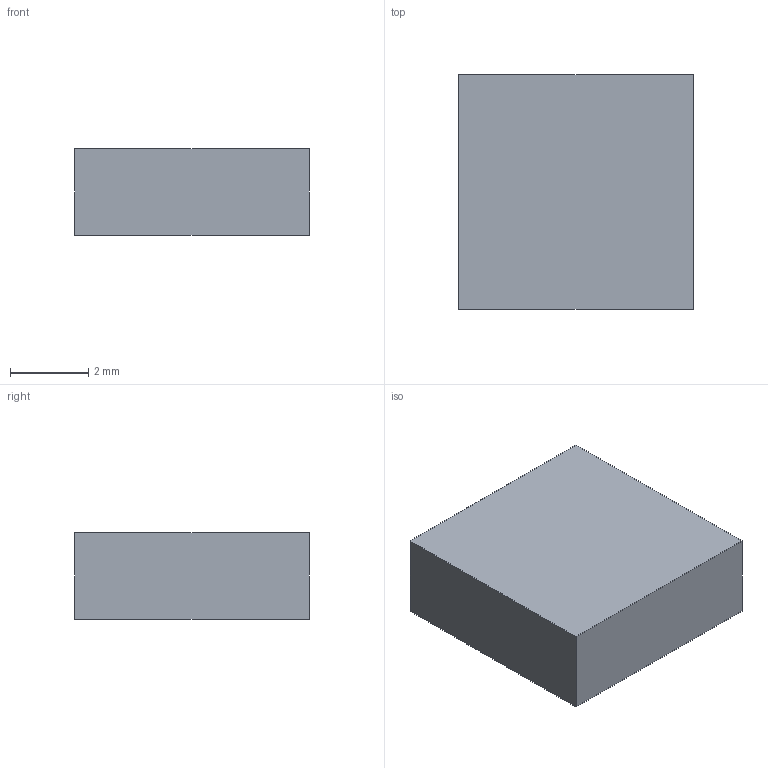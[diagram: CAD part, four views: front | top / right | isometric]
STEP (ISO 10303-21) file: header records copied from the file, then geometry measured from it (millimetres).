
FILE_DESCRIPTION(('Open CASCADE Model'),'2;1');
FILE_NAME('Open CASCADE Shape Model','2026-09-08T11:15:49',('Author'),( 'Open CASCADE'),'Open CASCADE STEP processor 7.7','Open CASCADE 7.7' ,'Unknown');
FILE_SCHEMA(('AUTOMOTIVE_DESIGN { 1 0 10303 214 1 1 1 1 }'));
Length unit declared in the file: millimetre
Products named in the file (1): Open CASCADE STEP translator 7.7 37
Bounding box: 6 x 6 x 2.2 mm (x, y, z)
Volume: 79.2 mm3; surface area: 124.8 mm2
Topology: 1 solids, 1 shells, 6 faces, 12 edges, 8 vertices
Faces by surface type: plane 6
Entity records: 322 total; most frequent: CARTESIAN_POINT 51, DIRECTION 50, LINE 36, VECTOR 36, ORIENTED_EDGE 24, PCURVE 24, DEFINITIONAL_REPRESENTATION 24, EDGE_CURVE 12
